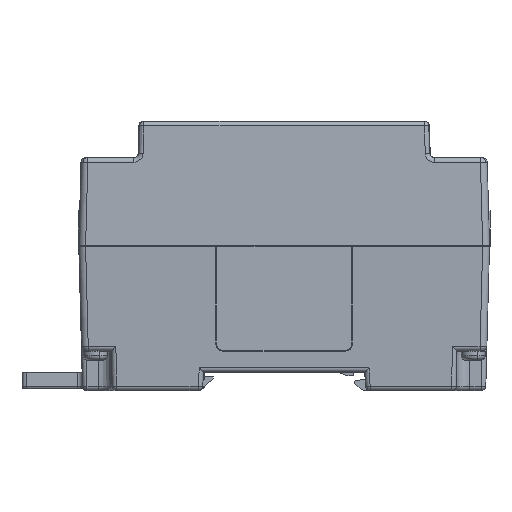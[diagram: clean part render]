
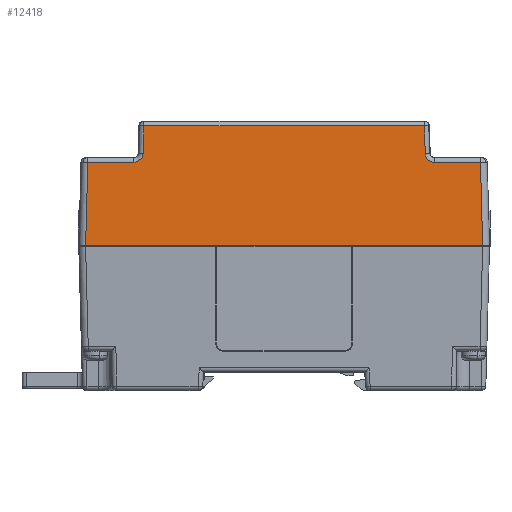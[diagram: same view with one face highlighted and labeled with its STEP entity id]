
A CAD part, left-side view. The second image highlights one B-rep face of the part: STEP entity #12418.
In plain terms, the highlighted planar face has unit normal (-1, 0, 0.026).
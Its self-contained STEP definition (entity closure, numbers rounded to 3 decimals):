
#6892 = CARTESIAN_POINT ( 'NONE',  ( -50.928, -43.179, -8.474 ) ) ;
#7739 = CARTESIAN_POINT ( 'NONE',  ( -51.411, -43.661, -26.9 ) ) ;
#7741 = CARTESIAN_POINT ( 'NONE',  ( -51.411, 43.661, -26.9 ) ) ;
#8612 = CARTESIAN_POINT ( 'NONE',  ( -50.928, 43.179, -8.474 ) ) ;
#8613 = CARTESIAN_POINT ( 'NONE',  ( -50.928, 33.048, -8.474 ) ) ;
#8618 = CARTESIAN_POINT ( 'NONE',  ( -50.877, 31.031, -6.526 ) ) ;
#8619 = CARTESIAN_POINT ( 'NONE',  ( -50.928, -33.048, -8.474 ) ) ;
#8620 = CARTESIAN_POINT ( 'NONE',  ( -50.877, -31.031, -6.526 ) ) ;
#8913 = CARTESIAN_POINT ( 'NONE',  ( -50.719, -30.854, -0.474 ) ) ;
#8916 = CARTESIAN_POINT ( 'NONE',  ( -50.719, 30.854, -0.474 ) ) ;
#12418 = ADVANCED_FACE ( 'NONE', ( #30870 ), #30871, .T. ) ;
#12943 = EDGE_CURVE ( 'NONE', #27599, #27598, #36258, .T. ) ;
#12945 = EDGE_CURVE ( 'NONE', #27599, #27604, #24623, .T. ) ;
#12947 = EDGE_CURVE ( 'NONE', #27902, #27604, #24624, .T. ) ;
#12948 = EDGE_CURVE ( 'NONE', #27899, #27902, #36315, .T. ) ;
#12949 = EDGE_CURVE ( 'NONE', #27606, #27899, #24625, .T. ) ;
#12951 = EDGE_CURVE ( 'NONE', #27606, #27605, #24626, .T. ) ;
#12953 = EDGE_CURVE ( 'NONE', #24774, #27605, #36347, .T. ) ;
#13308 = EDGE_CURVE ( 'NONE', #27598, #26726, #39226, .T. ) ;
#13309 = EDGE_CURVE ( 'NONE', #26724, #26726, #39229, .T. ) ;
#13310 = EDGE_CURVE ( 'NONE', #26724, #24774, #39232, .T. ) ;
#15705 = ORIENTED_EDGE ( 'NONE', *, *, #13309, .F. ) ;
#15706 = ORIENTED_EDGE ( 'NONE', *, *, #13310, .T. ) ;
#15707 = ORIENTED_EDGE ( 'NONE', *, *, #12953, .T. ) ;
#15708 = ORIENTED_EDGE ( 'NONE', *, *, #12951, .F. ) ;
#15709 = ORIENTED_EDGE ( 'NONE', *, *, #12949, .T. ) ;
#15710 = ORIENTED_EDGE ( 'NONE', *, *, #12948, .T. ) ;
#15711 = ORIENTED_EDGE ( 'NONE', *, *, #12947, .T. ) ;
#15712 = ORIENTED_EDGE ( 'NONE', *, *, #12945, .F. ) ;
#15713 = ORIENTED_EDGE ( 'NONE', *, *, #12943, .T. ) ;
#15714 = ORIENTED_EDGE ( 'NONE', *, *, #13308, .T. ) ;
#24623 = B_SPLINE_CURVE_WITH_KNOTS ( 'NONE', 3,
 ( #36278, #36267, #36270, #36279, #36281, #36283, #36285, #36287, #36289, #36291, #36293, #36294, #36295, #36297, #36299, #36301 ),
 .UNSPECIFIED., .F., .F.,
 ( 4, 2, 2, 2, 2, 2, 2, 4 ),
 ( 0., 0.001, 0.001, 0.002, 0.002, 0.002, 0.003, 0.003 ),
 .UNSPECIFIED. ) ;
#24624 = B_SPLINE_CURVE_WITH_KNOTS ( 'NONE', 3,
 ( #36306, #36305, #36317, #36319, #36320, #36321, #36323 ),
 .UNSPECIFIED., .F., .F.,
 ( 4, 3, 4 ),
 ( 0., 0.003, 0.006 ),
 .UNSPECIFIED. ) ;
#24625 = B_SPLINE_CURVE_WITH_KNOTS ( 'NONE', 3,
 ( #36332, #36307, #36272, #36335, #36337, #36338, #36339 ),
 .UNSPECIFIED., .F., .F.,
 ( 4, 3, 4 ),
 ( 0., 0.003, 0.006 ),
 .UNSPECIFIED. ) ;
#24626 = B_SPLINE_CURVE_WITH_KNOTS ( 'NONE', 3,
 ( #36345, #36343, #36354, #36355, #36357, #36359, #36361, #36362, #36364, #36366, #36368, #36369, #36371, #36373, #36375, #36377 ),
 .UNSPECIFIED., .F., .F.,
 ( 4, 2, 2, 2, 2, 2, 2, 4 ),
 ( 0., 0.001, 0.001, 0.002, 0.002, 0.002, 0.003, 0.003 ),
 .UNSPECIFIED. ) ;
#24774 = VERTEX_POINT ( 'NONE', #6892 ) ;
#25998 = EDGE_LOOP ( 'NONE', ( #15705, #15706, #15707, #15708, #15709, #15710, #15711, #15712, #15713, #15714 ) ) ;
#26724 = VERTEX_POINT ( 'NONE', #7739 ) ;
#26726 = VERTEX_POINT ( 'NONE', #7741 ) ;
#27598 = VERTEX_POINT ( 'NONE', #8612 ) ;
#27599 = VERTEX_POINT ( 'NONE', #8613 ) ;
#27604 = VERTEX_POINT ( 'NONE', #8618 ) ;
#27605 = VERTEX_POINT ( 'NONE', #8619 ) ;
#27606 = VERTEX_POINT ( 'NONE', #8620 ) ;
#27899 = VERTEX_POINT ( 'NONE', #8913 ) ;
#27902 = VERTEX_POINT ( 'NONE', #8916 ) ;
#30867 = CARTESIAN_POINT ( 'NONE',  ( -51.414, 45.164, -27. ) ) ;
#30870 = FACE_OUTER_BOUND ( 'NONE', #25998, .T. ) ;
#30871 = PLANE ( 'NONE',  #31097 ) ;
#30873 = DIRECTION ( 'NONE',  ( -1., 0., 0.026 ) ) ;
#30874 = DIRECTION ( 'NONE',  ( 0.026, 0., 1. ) ) ;
#31097 = AXIS2_PLACEMENT_3D ( 'NONE', #30867, #30873, #30874 ) ;
#31671 = VECTOR ( 'NONE', #36265, 1000. ) ;
#31675 = VECTOR ( 'NONE', #36328, 1000. ) ;
#31679 = VECTOR ( 'NONE', #36389, 1000. ) ;
#32186 = VECTOR ( 'NONE', #39228, 1000. ) ;
#32188 = VECTOR ( 'NONE', #39234, 1000. ) ;
#32193 = VECTOR ( 'NONE', #39231, 1000. ) ;
#36233 = CARTESIAN_POINT ( 'NONE',  ( -50.928, 43.153, -8.474 ) ) ;
#36258 = LINE ( 'NONE', #36233, #31671 ) ;
#36265 = DIRECTION ( 'NONE',  ( 0., 1., 0. ) ) ;
#36267 = CARTESIAN_POINT ( 'NONE',  ( -50.928, 32.787, -8.474 ) ) ;
#36270 = CARTESIAN_POINT ( 'NONE',  ( -50.927, 32.528, -8.423 ) ) ;
#36272 = CARTESIAN_POINT ( 'NONE',  ( -50.825, -30.972, -4.531 ) ) ;
#36278 = CARTESIAN_POINT ( 'NONE',  ( -50.928, 33.048, -8.474 ) ) ;
#36279 = CARTESIAN_POINT ( 'NONE',  ( -50.923, 32.17, -8.278 ) ) ;
#36281 = CARTESIAN_POINT ( 'NONE',  ( -50.922, 32.054, -8.218 ) ) ;
#36283 = CARTESIAN_POINT ( 'NONE',  ( -50.918, 31.837, -8.077 ) ) ;
#36285 = CARTESIAN_POINT ( 'NONE',  ( -50.916, 31.736, -7.997 ) ) ;
#36287 = CARTESIAN_POINT ( 'NONE',  ( -50.911, 31.551, -7.819 ) ) ;
#36289 = CARTESIAN_POINT ( 'NONE',  ( -50.909, 31.465, -7.719 ) ) ;
#36291 = CARTESIAN_POINT ( 'NONE',  ( -50.903, 31.318, -7.507 ) ) ;
#36293 = CARTESIAN_POINT ( 'NONE',  ( -50.9, 31.254, -7.396 ) ) ;
#36294 = CARTESIAN_POINT ( 'NONE',  ( -50.894, 31.149, -7.159 ) ) ;
#36295 = CARTESIAN_POINT ( 'NONE',  ( -50.891, 31.108, -7.035 ) ) ;
#36297 = CARTESIAN_POINT ( 'NONE',  ( -50.884, 31.051, -6.784 ) ) ;
#36299 = CARTESIAN_POINT ( 'NONE',  ( -50.881, 31.035, -6.656 ) ) ;
#36301 = CARTESIAN_POINT ( 'NONE',  ( -50.877, 31.031, -6.526 ) ) ;
#36305 = CARTESIAN_POINT ( 'NONE',  ( -50.746, 30.884, -1.493 ) ) ;
#36306 = CARTESIAN_POINT ( 'NONE',  ( -50.719, 30.854, -0.474 ) ) ;
#36307 = CARTESIAN_POINT ( 'NONE',  ( -50.851, -31.002, -5.528 ) ) ;
#36315 = LINE ( 'NONE', #36326, #31675 ) ;
#36317 = CARTESIAN_POINT ( 'NONE',  ( -50.772, 30.913, -2.513 ) ) ;
#36319 = CARTESIAN_POINT ( 'NONE',  ( -50.799, 30.943, -3.533 ) ) ;
#36320 = CARTESIAN_POINT ( 'NONE',  ( -50.825, 30.972, -4.531 ) ) ;
#36321 = CARTESIAN_POINT ( 'NONE',  ( -50.851, 31.002, -5.528 ) ) ;
#36323 = CARTESIAN_POINT ( 'NONE',  ( -50.877, 31.031, -6.526 ) ) ;
#36326 = CARTESIAN_POINT ( 'NONE',  ( -50.719, 31.942, -0.474 ) ) ;
#36328 = DIRECTION ( 'NONE',  ( 0., 1., 0. ) ) ;
#36330 = CARTESIAN_POINT ( 'NONE',  ( -50.928, -32.177, -8.474 ) ) ;
#36332 = CARTESIAN_POINT ( 'NONE',  ( -50.877, -31.031, -6.526 ) ) ;
#36335 = CARTESIAN_POINT ( 'NONE',  ( -50.799, -30.943, -3.533 ) ) ;
#36337 = CARTESIAN_POINT ( 'NONE',  ( -50.772, -30.913, -2.513 ) ) ;
#36338 = CARTESIAN_POINT ( 'NONE',  ( -50.746, -30.884, -1.493 ) ) ;
#36339 = CARTESIAN_POINT ( 'NONE',  ( -50.719, -30.854, -0.474 ) ) ;
#36343 = CARTESIAN_POINT ( 'NONE',  ( -50.884, -31.038, -6.787 ) ) ;
#36345 = CARTESIAN_POINT ( 'NONE',  ( -50.877, -31.031, -6.526 ) ) ;
#36347 = LINE ( 'NONE', #36330, #31679 ) ;
#36354 = CARTESIAN_POINT ( 'NONE',  ( -50.891, -31.098, -7.044 ) ) ;
#36355 = CARTESIAN_POINT ( 'NONE',  ( -50.9, -31.255, -7.396 ) ) ;
#36357 = CARTESIAN_POINT ( 'NONE',  ( -50.903, -31.319, -7.51 ) ) ;
#36359 = CARTESIAN_POINT ( 'NONE',  ( -50.909, -31.468, -7.722 ) ) ;
#36361 = CARTESIAN_POINT ( 'NONE',  ( -50.911, -31.552, -7.819 ) ) ;
#36362 = CARTESIAN_POINT ( 'NONE',  ( -50.916, -31.738, -7.998 ) ) ;
#36364 = CARTESIAN_POINT ( 'NONE',  ( -50.918, -31.841, -8.08 ) ) ;
#36366 = CARTESIAN_POINT ( 'NONE',  ( -50.922, -32.057, -8.22 ) ) ;
#36368 = CARTESIAN_POINT ( 'NONE',  ( -50.923, -32.171, -8.279 ) ) ;
#36369 = CARTESIAN_POINT ( 'NONE',  ( -50.926, -32.411, -8.376 ) ) ;
#36371 = CARTESIAN_POINT ( 'NONE',  ( -50.927, -32.537, -8.412 ) ) ;
#36373 = CARTESIAN_POINT ( 'NONE',  ( -50.928, -32.789, -8.461 ) ) ;
#36375 = CARTESIAN_POINT ( 'NONE',  ( -50.928, -32.918, -8.474 ) ) ;
#36377 = CARTESIAN_POINT ( 'NONE',  ( -50.928, -33.048, -8.474 ) ) ;
#36389 = DIRECTION ( 'NONE',  ( 0., 1., 0. ) ) ;
#39226 = LINE ( 'NONE', #39227, #32186 ) ;
#39227 = CARTESIAN_POINT ( 'NONE',  ( -51.415, 43.665, -27.039 ) ) ;
#39228 = DIRECTION ( 'NONE',  ( -0.026, 0.026, -0.999 ) ) ;
#39229 = LINE ( 'NONE', #39230, #32193 ) ;
#39230 = CARTESIAN_POINT ( 'NONE',  ( -51.411, 45.164, -26.9 ) ) ;
#39231 = DIRECTION ( 'NONE',  ( 0., 1., 0. ) ) ;
#39232 = LINE ( 'NONE', #39233, #32188 ) ;
#39233 = CARTESIAN_POINT ( 'NONE',  ( -51.353, -43.603, -24.677 ) ) ;
#39234 = DIRECTION ( 'NONE',  ( 0.026, 0.026, 0.999 ) ) ;
